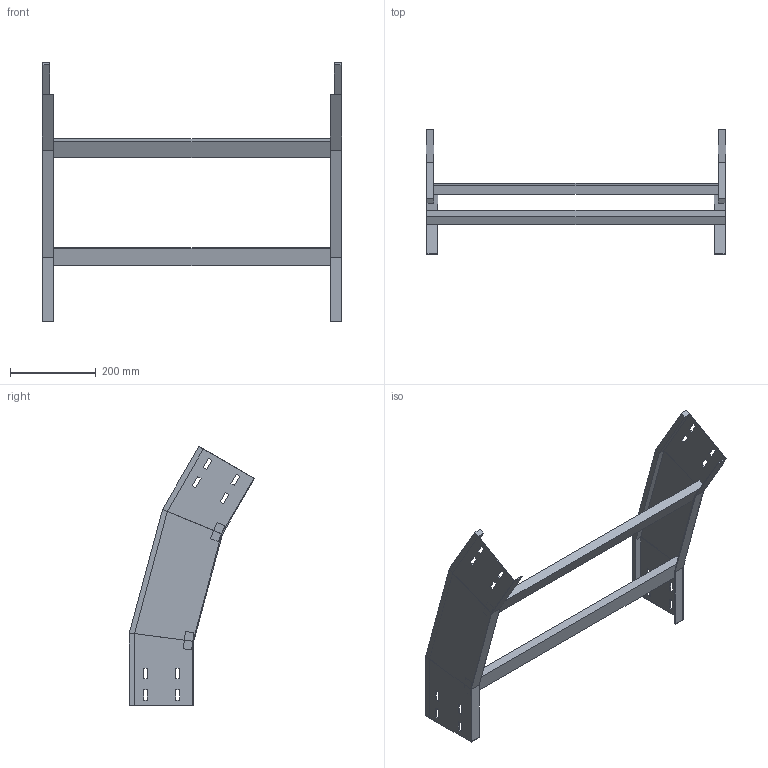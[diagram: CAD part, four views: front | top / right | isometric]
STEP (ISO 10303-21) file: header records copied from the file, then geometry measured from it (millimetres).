
FILE_DESCRIPTION (( 'STEP AP214' ), '1' );
FILE_NAME ('35J5F700.step', '2025-02-21T16:21:43', ( '' ), ( '' ), 'SwSTEP 2.0', 'SolidWorks 2023', '' );
FILE_SCHEMA (( 'AUTOMOTIVE_DESIGN' ));
Length unit declared in the file: millimetre
Products named in the file (3): TRAVERSINO_700; 35J5F700; LONGH.DISCESA_30°_H150_R500
Assembly tree (4 placements, depth 2):
  35J5F700
    LONGH.DISCESA_30°_H150_R500  x2
    TRAVERSINO_700  x2
Bounding box: 700 x 292.03 x 605.08 mm (x, y, z)
Volume: 1779145.5 mm3; surface area: 629283.3 mm2
Topology: 4 solids, 4 shells, 128 faces, 328 edges, 208 vertices
Faces by surface type: plane 128
Entity records: 2016 total; most frequent: CARTESIAN_POINT 339, ORIENTED_EDGE 328, DIRECTION 306, LINE 164, EDGE_CURVE 164, VECTOR 164, VERTEX_POINT 104, EDGE_LOOP 80
